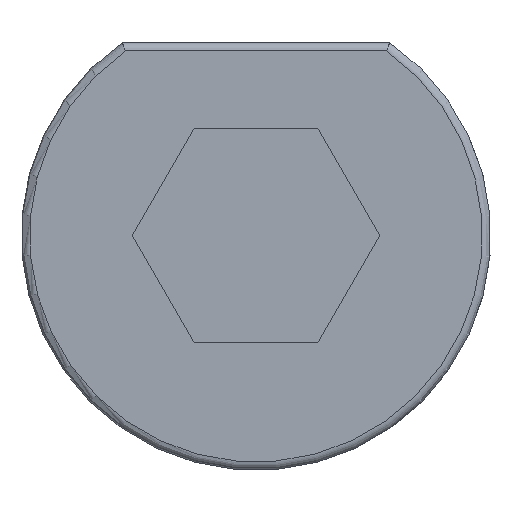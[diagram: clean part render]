
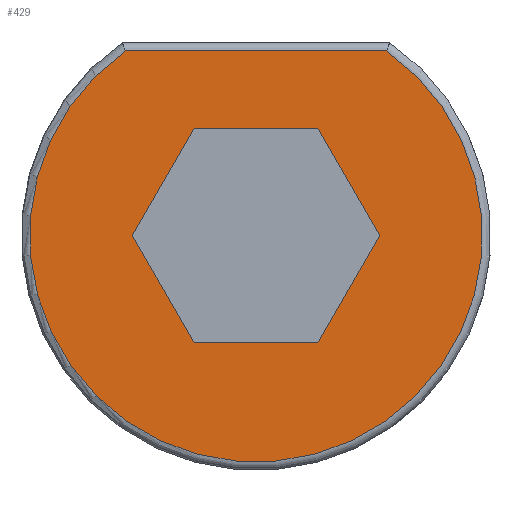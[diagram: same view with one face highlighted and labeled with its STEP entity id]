
A CAD part, front view. The second image highlights one B-rep face of the part: STEP entity #429.
In plain terms, the highlighted planar face has unit normal (0, -1, 0).
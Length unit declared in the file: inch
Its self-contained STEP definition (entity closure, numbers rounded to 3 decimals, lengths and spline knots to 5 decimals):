
#17=PLANE('',#490);
#31=FACE_BOUND('',#148,.T.);
#54=LINE('',#782,#85);
#55=LINE('',#786,#86);
#56=LINE('',#788,#87);
#57=LINE('',#790,#88);
#58=LINE('',#792,#89);
#59=LINE('',#794,#90);
#60=LINE('',#795,#91);
#85=VECTOR('',#589,0.3937);
#86=VECTOR('',#592,0.3937);
#87=VECTOR('',#593,0.3937);
#88=VECTOR('',#594,0.3937);
#89=VECTOR('',#595,0.3937);
#90=VECTOR('',#596,0.3937);
#91=VECTOR('',#597,0.3937);
#120=FACE_OUTER_BOUND('',#147,.T.);
#147=EDGE_LOOP('',(#364,#365));
#148=EDGE_LOOP('',(#366,#367,#368,#369,#370,#371));
#176=CIRCLE('',#488,0.266);
#211=VERTEX_POINT('',#749);
#212=VERTEX_POINT('',#750);
#213=VERTEX_POINT('',#784);
#214=VERTEX_POINT('',#785);
#215=VERTEX_POINT('',#787);
#216=VERTEX_POINT('',#789);
#217=VERTEX_POINT('',#791);
#218=VERTEX_POINT('',#793);
#263=EDGE_CURVE('',#211,#212,#176,.T.);
#267=EDGE_CURVE('',#212,#211,#54,.T.);
#268=EDGE_CURVE('',#213,#214,#55,.T.);
#269=EDGE_CURVE('',#214,#215,#56,.T.);
#270=EDGE_CURVE('',#215,#216,#57,.T.);
#271=EDGE_CURVE('',#216,#217,#58,.T.);
#272=EDGE_CURVE('',#217,#218,#59,.T.);
#273=EDGE_CURVE('',#218,#213,#60,.T.);
#364=ORIENTED_EDGE('',*,*,#263,.F.);
#365=ORIENTED_EDGE('',*,*,#267,.F.);
#366=ORIENTED_EDGE('',*,*,#268,.T.);
#367=ORIENTED_EDGE('',*,*,#269,.T.);
#368=ORIENTED_EDGE('',*,*,#270,.T.);
#369=ORIENTED_EDGE('',*,*,#271,.T.);
#370=ORIENTED_EDGE('',*,*,#272,.T.);
#371=ORIENTED_EDGE('',*,*,#273,.T.);
#429=ADVANCED_FACE('',(#120,#31),#17,.T.);
#488=AXIS2_PLACEMENT_3D('',#751,#584,#585);
#490=AXIS2_PLACEMENT_3D('',#783,#590,#591);
#584=DIRECTION('center_axis',(0.,1.,0.));
#585=DIRECTION('ref_axis',(0.,0.,-1.));
#589=DIRECTION('',(1.,0.,0.));
#590=DIRECTION('center_axis',(0.,-1.,0.));
#591=DIRECTION('ref_axis',(0.,0.,-1.));
#592=DIRECTION('',(1.,0.,0.));
#593=DIRECTION('',(0.5,0.,-0.866));
#594=DIRECTION('',(-0.5,0.,-0.866));
#595=DIRECTION('',(-1.,0.,0.));
#596=DIRECTION('',(-0.5,0.,0.866));
#597=DIRECTION('',(0.5,0.,0.866));
#749=CARTESIAN_POINT('',(0.15384,0.,0.217));
#750=CARTESIAN_POINT('',(-0.15384,0.,0.217));
#751=CARTESIAN_POINT('Origin',(0.,0.,0.));
#782=CARTESIAN_POINT('',(0.0785,0.,0.217));
#783=CARTESIAN_POINT('Origin',(0.,0.,0.));
#784=CARTESIAN_POINT('',(-0.07275,0.,0.126));
#785=CARTESIAN_POINT('',(0.07275,0.,0.126));
#786=CARTESIAN_POINT('',(-0.03637,0.,0.126));
#787=CARTESIAN_POINT('',(0.14549,0.,0.));
#788=CARTESIAN_POINT('',(0.09093,0.,0.0945));
#789=CARTESIAN_POINT('',(0.07275,0.,-0.126));
#790=CARTESIAN_POINT('',(0.12731,0.,-0.0315));
#791=CARTESIAN_POINT('',(-0.07275,0.,-0.126));
#792=CARTESIAN_POINT('',(0.03637,0.,-0.126));
#793=CARTESIAN_POINT('',(-0.14549,0.,0.));
#794=CARTESIAN_POINT('',(-0.09093,0.,-0.0945));
#795=CARTESIAN_POINT('',(-0.12731,0.,0.0315));
